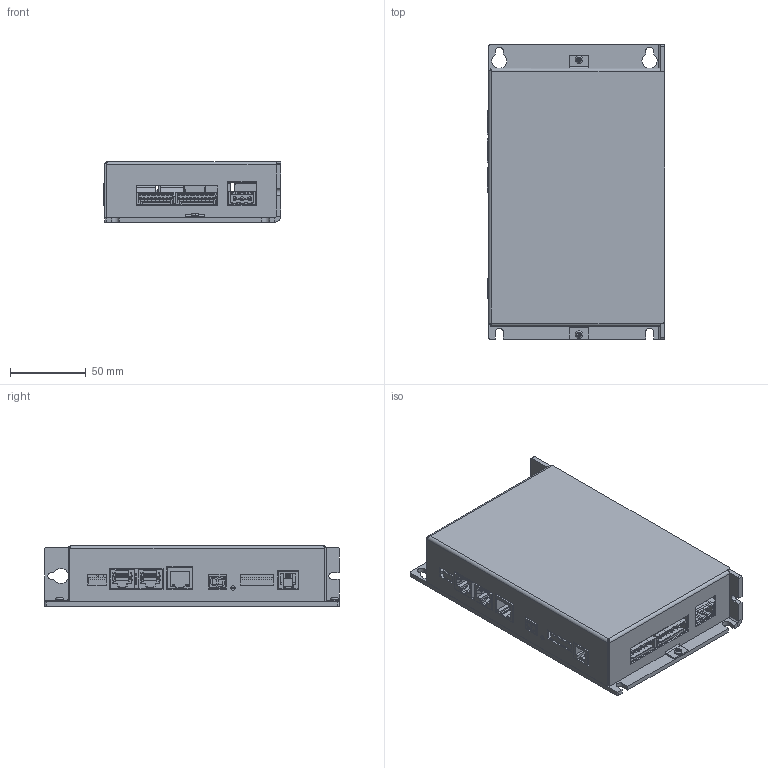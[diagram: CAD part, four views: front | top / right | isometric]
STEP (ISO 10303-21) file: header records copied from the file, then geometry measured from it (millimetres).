
FILE_DESCRIPTION((''),'2;1');
FILE_NAME('ASSIEME_GWC02_ASM','2020-12-09T09:26:41',('Matteo Maccalli'),(''),'CREO PARAMETRIC BY PTC INC, 2019344','CREO PARAMETRIC BY PTC INC, 2019344','');
FILE_SCHEMA(('AUTOMOTIVE_DESIGN { 1 0 10303 214 1 1 1 1 }'));
Products named in the file (56): RA_GWC02_NO_INSERTI_AF1; DISTANZIALE_CIECO_M3X10; RA_GWC02_ASM; OPEN_CASCADE_STEP_TRANSLATO-110; BOARD-100_ASM; LED_HSMX-C680_1_2_3_4_1; LED_HSMX-C680_1_2_3_4_2; LED_HSMX-C680_1_2_3_4_3; LED_HSMX-C680_1_2_3_4_4; LED_HSMX-C680_1_2_3_4_ASM; LED901_ASM; LED_HSMX-C680_1; LED_HSMX-C680_2; LED_HSMX-C680_3; LED_HSMX-C680_4; LED_HSMX-C680_ASM; LED900_ASM; J0011D01BNL_1_2; CN9B_ASM; J0011D01BNL; CN9A_ASM; C-5555153-1-C-3D_1_2; CN4_ASM; 19613; DIP600_ASM; BOARD-28015; TDS; DISPLAY_ASM; WPW05VIS-01_ASM; VIS300_ASM; LED300_ASM; SW_DIP8_90_THD; DIP300_ASM; MC_0_5-10-G-2_5_THT; 1963502_00_ASM; CN8_ASM; MC_0_5-9-G-2_5_THT; 1963492_ASM; CN7_ASM; OPEN_CASCADE_STEP_TRANSLA-65595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
Assembly tree (64 placements, depth 7):
  ASSIEME_GWC02_ASM
    RA_GWC02_ASM
      RA_GWC02_NO_INSERTI_AF1
      DISTANZIALE_CIECO_M3X10  x6
    GWC02-00_CONNETTORI_ASM
      PCB_1_ASM
        BOARD-100_ASM
          OPEN_CASCADE_STEP_TRANSLATO-110
        LED901_ASM
          LED_HSMX-C680_1_2_3_4_ASM
            LED_HSMX-C680_1_2_3_4_1
            LED_HSMX-C680_1_2_3_4_2
            LED_HSMX-C680_1_2_3_4_3
            LED_HSMX-C680_1_2_3_4_4
        LED900_ASM
          LED_HSMX-C680_ASM
            LED_HSMX-C680_1
            LED_HSMX-C680_2
            LED_HSMX-C680_3
            LED_HSMX-C680_4
        CN9B_ASM
          J0011D01BNL_1_2
        CN9A_ASM
          J0011D01BNL
        CN4_ASM
          C-5555153-1-C-3D_1_2
        DIP600_ASM
          19613
        VIS300_ASM
          WPW05VIS-01_ASM
            BOARD-28015
            DISPLAY_ASM
              TDS
        LED300_ASM
          LED_HSMX-C680_ASM
            LED_HSMX-C680_1
            LED_HSMX-C680_2
            LED_HSMX-C680_3
            LED_HSMX-C680_4
        DIP300_ASM
          SW_DIP8_90_THD
        CN8_ASM
          1963502_00_ASM
            MC_0_5-10-G-2_5_THT
        CN7_ASM
          1963492_ASM
            MC_0_5-9-G-2_5_THT
        CN6_ASM
          955012641_ASM
            OPEN_CASCADE_STEP_TRANSLA-65595
            OPEN_CASCADE_STEP_TRANSLA-74208
        CN5_ASM
          J0011D01BNL
        CN3_ASM
          C-5555153-1-C-3D
        CN2B_ASM
          C-5555153-1-C-3D
        CN2A_ASM
          C-5555153-1-C-3D
        CN1_ASM
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Bounding box: 116.92 x 194 x 40 mm (x, y, z)
Volume: 171282.9 mm3; surface area: 189114.5 mm2
Topology: 38 solids, 38 shells, 4578 faces, 12157 edges, 7955 vertices
Faces by surface type: plane 3496, cylinder 970, cone 72, sphere 28, torus 8, bspline 4
Entity records: 145205 total; most frequent: CARTESIAN_POINT 21605, ORIENTED_EDGE 19438, DIRECTION 19053, EDGE_CURVE 9719, VECTOR 7609, LINE 7609, PRESENTATION_STYLE_ASSIGNMENT 6933, VERTEX_POINT 6362
